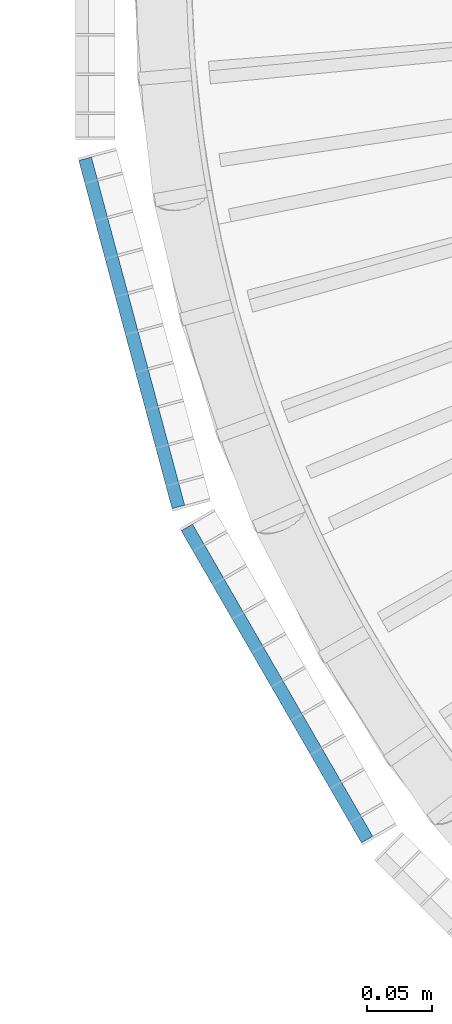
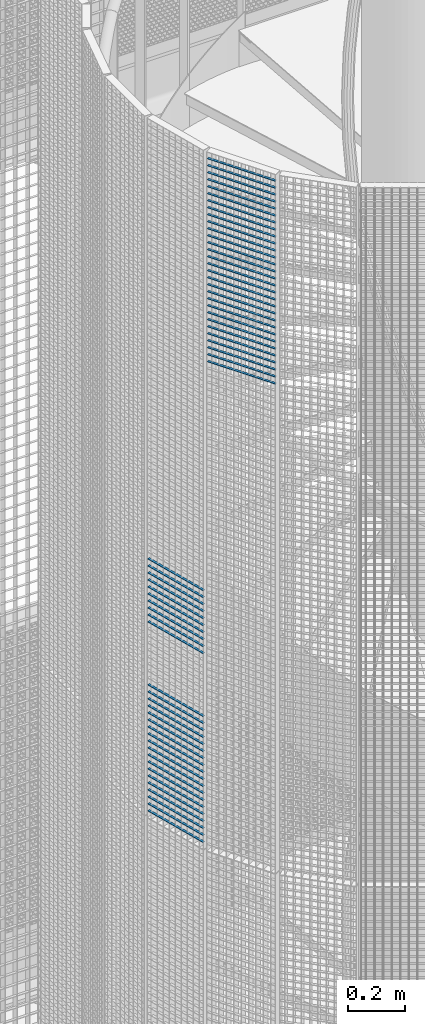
# One storey, part 338 of 1183: 59 beams, 2 elements without a shape of their own.
"""IFC2X3 building model written with IfcOpenShell, lengths in millimetres."""

import ifcopenshell
import ifcopenshell.guid

model = None  # the IFC model being written
_history = None  # IfcOwnerHistory: only IFC2X3 demands one
_inside = {}  # id of a spatial element -> (the spatial element, [elements in it])
_under = {}  # id of a project, library or spatial element -> (it, [spatial elements below it])
_declared = {}  # id of a project -> (the project, [libraries it declares])
_typed = {}  # id of a type object -> (the type object, [elements of that type])
_made_of = {}  # id of a material, layer set ... -> (it, [elements and type objects made of it])


def new_model(schema):
    """Start an empty IFC model of exactly this schema.

    Asked for "IFC4X3", IfcOpenShell would pick the latest addendum, in which some entities
    have other attributes; the version numbers below select the first issue.
    IFC2X3 requires an IfcOwnerHistory on every rooted entity: one is made here for all.
    """
    global model, _history
    if schema == "IFC4X3":
        model = ifcopenshell.file(schema_version=(4, 3, 0, 0))
    else:
        model = ifcopenshell.file(schema=schema)
    _inside.clear()
    _under.clear()
    _declared.clear()
    _typed.clear()
    _made_of.clear()
    _history = None
    if model.schema == "IFC2X3":
        org = make("IfcOrganization", Name="unknown")
        user = make(
            "IfcPersonAndOrganization",
            ThePerson=make("IfcPerson", FamilyName="unknown"),
            TheOrganization=org,
        )
        app = make(
            "IfcApplication",
            ApplicationDeveloper=org,
            Version="unknown",
            ApplicationFullName="unknown",
            ApplicationIdentifier="unknown",
        )
        _history = make(
            "IfcOwnerHistory",
            OwningUser=user,
            OwningApplication=app,
            ChangeAction="ADDED",
            CreationDate=0,
        )
    return model


def make(cls, **values):
    """One entity of the class cls with the attributes given. An attribute that is None is left unset."""
    return model.create_entity(
        cls, **{name: value for name, value in values.items() if value is not None}
    )


def rooted(cls, **values):
    """An entity with a GlobalId (a new one), such as an element, a storey or a relation."""
    return make(cls, GlobalId=ifcopenshell.guid.new(), OwnerHistory=_history, **values)


def si_unit(unit_type, name, prefix=None):
    """IfcSIUnit, for example si_unit("LENGTHUNIT", "METRE", prefix="MILLI")."""
    return make("IfcSIUnit", UnitType=unit_type, Prefix=prefix, Name=name)


def assignment(units):
    """IfcUnitAssignment: the units of a project."""
    return None if units is None else make("IfcUnitAssignment", Units=units)


def point(xyz):
    """IfcCartesianPoint."""
    return None if xyz is None else make("IfcCartesianPoint", Coordinates=xyz)


def direction(xyz):
    """IfcDirection."""
    return None if xyz is None else make("IfcDirection", DirectionRatios=xyz)


def frame(location, z_axis=None, x_axis=None):
    """IfcAxis2Placement3D, a coordinate frame: its origin and axes. An axis left out is left unset."""
    return make(
        "IfcAxis2Placement3D",
        Location=point(location),
        Axis=direction(z_axis),
        RefDirection=direction(x_axis),
    )


def frame_2d(location, x_axis=None):
    """IfcAxis2Placement2D, a coordinate frame in the plane: its origin and x axis."""
    return make(
        "IfcAxis2Placement2D", Location=point(location), RefDirection=direction(x_axis)
    )


def origin_with_axes():
    """The frame at (0, 0, 0) with the z axis (0, 0, 1) and the x axis (1, 0, 0) written out."""
    return frame((0.0, 0.0, 0.0), z_axis=(0.0, 0.0, 1.0), x_axis=(1.0, 0.0, 0.0))


def origin_2d_with_axis():
    """The frame at (0, 0) in the plane with the x axis (1, 0) written out."""
    return frame_2d((0.0, 0.0), x_axis=(1.0, 0.0))


def place(relative_to, where):
    """IfcLocalPlacement: puts the frame where relative to a parent placement (None: the world)."""
    return make(
        "IfcLocalPlacement", PlacementRelTo=relative_to, RelativePlacement=where
    )


def context(
    kind, dimensions, precision=None, world=None, true_north=None, identifier=None
):
    """IfcGeometricRepresentationContext, for example the 3D "Model" context."""
    return make(
        "IfcGeometricRepresentationContext",
        ContextIdentifier=identifier,
        ContextType=kind,
        CoordinateSpaceDimension=dimensions,
        Precision=precision,
        WorldCoordinateSystem=world,
        TrueNorth=true_north,
    )


def subcontext(parent, identifier, kind, view, scale=None):
    """IfcGeometricRepresentationSubContext, for example "Body" below "Model"."""
    return make(
        "IfcGeometricRepresentationSubContext",
        ContextIdentifier=identifier,
        ContextType=kind,
        ParentContext=parent,
        TargetScale=scale,
        TargetView=view,
    )


def project(units=None, contexts=None):
    """IfcProject with its units and contexts."""
    return rooted(
        "IfcProject",
        Name="project",
        RepresentationContexts=contexts,
        UnitsInContext=assignment(units),
    )


def spatial(cls, under=None, at=None, **own):
    """A site, building, storey or space (cls), placed at a placement, below another one or the project."""
    s = rooted(cls, ObjectPlacement=at, **own)
    if under is not None:
        _under.setdefault(under.id(), (under, []))[1].append(s)
    return s


def profile(cls, at=None, kind="AREA", **sizes):
    """A parametric profile (cls). Its sizes go by their IFC names, for example OverallWidth=200.0."""
    return make(cls, ProfileType=kind, Position=at, **sizes)


def rectangle(**sizes):
    """IfcRectangleProfileDef."""
    return profile("IfcRectangleProfileDef", **sizes)


def extrude(swept, where, along, depth):
    """IfcExtrudedAreaSolid: the profile swept, set in the frame where, extruded along a direction by depth."""
    return make(
        "IfcExtrudedAreaSolid",
        SweptArea=swept,
        Position=where,
        ExtrudedDirection=direction(along),
        Depth=depth,
    )


def shape(context_of_items, identifier, shape_type, items):
    """IfcShapeRepresentation: the items that make up one representation, for example the "Body"."""
    return make(
        "IfcShapeRepresentation",
        ContextOfItems=context_of_items,
        RepresentationIdentifier=identifier,
        RepresentationType=shape_type,
        Items=items,
    )


def material(Name=None, Category=None):
    """IfcMaterial."""
    return make("IfcMaterial", Name=Name, Category=Category)


def made_of(thing, what):
    """Note that an element or type object is made of a material, layer set ...; save() writes the relation."""
    if what is not None:
        _made_of.setdefault(what.id(), (what, []))[1].append(thing)
    return thing


def type_object(cls, material=None, **own):
    """A type object (cls), such as IfcWallType, which elements share."""
    return made_of(rooted(cls, **own), material)


def element(
    cls,
    number,
    at=None,
    inside=None,
    cuts=None,
    type_object=None,
    material=None,
    context=None,
    identifier="Body",
    shape_type=None,
    held_by="IfcProductDefinitionShape",
    body=None,
    shapes=None,
    **own,
):
    """One element of the class cls, such as IfcWall. Its Tag is "e" and its number.

    at: its placement. inside: the storey or other place that contains it. cuts: it is an
    opening in that element (IfcRelVoidsElement). A single representation is given by context,
    identifier, shape_type and body (its items); several are given by shapes. held_by: the class
    of the entity that holds the representations. save() writes the other relations.
    """
    e = rooted(cls, Tag="e%d" % number, ObjectPlacement=at, **own)
    if body is not None:
        shapes = [shape(context, identifier, shape_type, body)]
    if shapes is not None:
        e.Representation = make(held_by, Representations=shapes)
    if inside is not None:
        _inside.setdefault(inside.id(), (inside, []))[1].append(e)
    if cuts is not None:
        rooted(
            "IfcRelVoidsElement", RelatingBuildingElement=cuts, RelatedOpeningElement=e
        )
    if type_object is not None:
        _typed.setdefault(type_object.id(), (type_object, []))[1].append(e)
    return made_of(e, material)


def aggregate(whole, parts):
    """IfcRelAggregates: a whole, such as a stair, and the parts it consists of."""
    return rooted("IfcRelAggregates", RelatingObject=whole, RelatedObjects=parts)


def save(model, path):
    """Write the relations noted so far, then the file.

    IfcRelAggregates (storeys below a building ...), IfcRelContainedInSpatialStructure (elements
    in a storey), IfcRelDefinesByType, IfcRelAssociatesMaterial and IfcRelDeclares: one each for
    every whole, place, type object, material and project.
    """
    for whole, parts in _under.values():
        aggregate(whole, parts)
    for where, things in _inside.values():
        rooted(
            "IfcRelContainedInSpatialStructure",
            RelatedElements=things,
            RelatingStructure=where,
        )
    for kind, things in _typed.values():
        rooted("IfcRelDefinesByType", RelatedObjects=things, RelatingType=kind)
    for what, things in _made_of.values():
        rooted("IfcRelAssociatesMaterial", RelatedObjects=things, RelatingMaterial=what)
    for by, libraries in _declared.values():
        rooted("IfcRelDeclares", RelatingContext=by, RelatedDefinitions=libraries)
    model.write(path)


model = new_model("IFC2X3")

# Units and contexts
model_context = context("Model", 3, precision=1e-05, world=origin_with_axes())
body_context = subcontext(model_context, "Body", "Model", "MODEL_VIEW")
ifc_project = project(units=[si_unit("LENGTHUNIT", "METRE", prefix="MILLI"), si_unit("AREAUNIT", "SQUARE_METRE"), si_unit("VOLUMEUNIT", "CUBIC_METRE"), si_unit("MASSUNIT", "GRAM", prefix="KILO"), si_unit("TIMEUNIT", "SECOND"), si_unit("PLANEANGLEUNIT", "RADIAN"), si_unit("SOLIDANGLEUNIT", "STERADIAN"), si_unit("THERMODYNAMICTEMPERATUREUNIT", "DEGREE_CELSIUS"), si_unit("LUMINOUSINTENSITYUNIT", "LUMEN")], contexts=[model_context])

# Site, building, storey
site_placement = place(None, origin_with_axes())
site = spatial("IfcSite", under=ifc_project, at=site_placement, Name="Undefined", CompositionType="ELEMENT")
building_placement = place(site_placement, origin_with_axes())
building = spatial("IfcBuilding", under=site, at=building_placement, Name="Undefined", CompositionType="ELEMENT")
storey_placement = place(building_placement, origin_with_axes())
storey = spatial("IfcBuildingStorey", under=building, at=storey_placement, Name="Undefined", CompositionType="ELEMENT", Elevation=0.0)

# Assembly, beams
assembly_1_placement = place(storey_placement, origin_with_axes())
assembly_1 = element("IfcElementAssembly", 1, at=assembly_1_placement, inside=storey, Name="BORDURE", AssemblyPlace="NOTDEFINED", PredefinedType="NOTDEFINED")
ifc_material = material(Name="STEEL/S235JR")
beam_type = type_object("IfcBeamType", Name="PL2*10", PredefinedType="NOTDEFINED")
beam_1_placement = place(assembly_1_placement, frame((20560.1769047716, -421.483733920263, 15570.0), z_axis=(-0.965925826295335, -0.258819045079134, 0.0), x_axis=(-0.258819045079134, 0.965925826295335, 0.0)))
beam_1 = element("IfcBeam", 2, at=beam_1_placement, type_object=beam_type, material=ifc_material, Name="ENTRETOISE", context=body_context, shape_type="SweptSolid", body=[
    extrude(rectangle(XDim=2.0, YDim=10.0, at=origin_2d_with_axis()), frame((275.999999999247, 9.09494701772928e-13, 1.53210777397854e-14), z_axis=(-1.0, 0.0, 0.0), x_axis=(0.0, -1.0, 0.0)), (0.0, 0.0, 1.0), 276.0),
])
beam_2_placement = place(assembly_1_placement, frame((20560.1769047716, -421.483733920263, 15540.0), z_axis=(-0.965925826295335, -0.258819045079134, 0.0), x_axis=(-0.258819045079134, 0.965925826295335, 0.0)))
beam_2 = element("IfcBeam", 3, at=beam_2_placement, type_object=beam_type, material=ifc_material, Name="ENTRETOISE", context=body_context, shape_type="SweptSolid", body=[
    extrude(rectangle(XDim=2.0, YDim=10.0, at=origin_2d_with_axis()), frame((275.999999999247, 9.09494701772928e-13, 1.53210777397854e-14), z_axis=(-1.0, 0.0, 0.0), x_axis=(0.0, -1.0, 0.0)), (0.0, 0.0, 1.0), 276.0),
])
beam_3_placement = place(assembly_1_placement, frame((20560.1769047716, -421.483733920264, 15840.0), z_axis=(-0.965925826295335, -0.258819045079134, 0.0), x_axis=(-0.258819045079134, 0.965925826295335, 0.0)))
beam_3 = element("IfcBeam", 4, at=beam_3_placement, type_object=beam_type, material=ifc_material, Name="ENTRETOISE", context=body_context, shape_type="SweptSolid", body=[
    extrude(rectangle(XDim=2.0, YDim=10.0, at=origin_2d_with_axis()), frame((275.999999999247, 9.09494701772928e-13, 1.53210777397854e-14), z_axis=(-1.0, 0.0, 0.0), x_axis=(0.0, -1.0, 0.0)), (0.0, 0.0, 1.0), 276.0),
])
beam_4_placement = place(assembly_1_placement, frame((20560.1769047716, -421.483733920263, 15510.0), z_axis=(-0.965925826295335, -0.258819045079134, 0.0), x_axis=(-0.258819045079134, 0.965925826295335, 0.0)))
beam_4 = element("IfcBeam", 5, at=beam_4_placement, type_object=beam_type, material=ifc_material, Name="ENTRETOISE", context=body_context, shape_type="SweptSolid", body=[
    extrude(rectangle(XDim=2.0, YDim=10.0, at=origin_2d_with_axis()), frame((275.999999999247, 9.09494701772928e-13, 1.53210777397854e-14), z_axis=(-1.0, 0.0, 0.0), x_axis=(0.0, -1.0, 0.0)), (0.0, 0.0, 1.0), 276.0),
])
beam_5_placement = place(assembly_1_placement, frame((20560.1769047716, -421.483733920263, 15480.0), z_axis=(-0.965925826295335, -0.258819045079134, 0.0), x_axis=(-0.258819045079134, 0.965925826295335, 0.0)))
beam_5 = element("IfcBeam", 6, at=beam_5_placement, type_object=beam_type, material=ifc_material, Name="ENTRETOISE", context=body_context, shape_type="SweptSolid", body=[
    extrude(rectangle(XDim=2.0, YDim=10.0, at=origin_2d_with_axis()), frame((275.999999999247, 9.09494701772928e-13, 1.53210777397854e-14), z_axis=(-1.0, 0.0, 0.0), x_axis=(0.0, -1.0, 0.0)), (0.0, 0.0, 1.0), 276.0),
])
beam_6_placement = place(assembly_1_placement, frame((20560.1769047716, -421.483733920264, 15870.0), z_axis=(-0.965925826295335, -0.258819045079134, 0.0), x_axis=(-0.258819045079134, 0.965925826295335, 0.0)))
beam_6 = element("IfcBeam", 7, at=beam_6_placement, type_object=beam_type, material=ifc_material, Name="ENTRETOISE", context=body_context, shape_type="SweptSolid", body=[
    extrude(rectangle(XDim=2.0, YDim=10.0, at=origin_2d_with_axis()), frame((275.999999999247, 9.09494701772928e-13, 1.53210777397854e-14), z_axis=(-1.0, 0.0, 0.0), x_axis=(0.0, -1.0, 0.0)), (0.0, 0.0, 1.0), 276.0),
])
beam_7_placement = place(assembly_1_placement, frame((20560.1769047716, -421.483733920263, 15450.0), z_axis=(-0.965925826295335, -0.258819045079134, 0.0), x_axis=(-0.258819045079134, 0.965925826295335, 0.0)))
beam_7 = element("IfcBeam", 8, at=beam_7_placement, type_object=beam_type, material=ifc_material, Name="ENTRETOISE", context=body_context, shape_type="SweptSolid", body=[
    extrude(rectangle(XDim=2.0, YDim=10.0, at=origin_2d_with_axis()), frame((275.999999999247, 9.09494701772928e-13, 1.53210777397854e-14), z_axis=(-1.0, 0.0, 0.0), x_axis=(0.0, -1.0, 0.0)), (0.0, 0.0, 1.0), 276.0),
])
beam_8_placement = place(assembly_1_placement, frame((20560.1769047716, -421.483733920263, 15420.0), z_axis=(-0.965925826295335, -0.258819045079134, 0.0), x_axis=(-0.258819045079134, 0.965925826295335, 0.0)))
beam_8 = element("IfcBeam", 9, at=beam_8_placement, type_object=beam_type, material=ifc_material, Name="ENTRETOISE", context=body_context, shape_type="SweptSolid", body=[
    extrude(rectangle(XDim=2.0, YDim=10.0, at=origin_2d_with_axis()), frame((275.999999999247, 9.09494701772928e-13, 1.53210777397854e-14), z_axis=(-1.0, 0.0, 0.0), x_axis=(0.0, -1.0, 0.0)), (0.0, 0.0, 1.0), 276.0),
])
beam_9_placement = place(assembly_1_placement, frame((20560.1769047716, -421.483733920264, 15900.0), z_axis=(-0.965925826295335, -0.258819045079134, 0.0), x_axis=(-0.258819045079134, 0.965925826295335, 0.0)))
beam_9 = element("IfcBeam", 10, at=beam_9_placement, type_object=beam_type, material=ifc_material, Name="ENTRETOISE", context=body_context, shape_type="SweptSolid", body=[
    extrude(rectangle(XDim=2.0, YDim=10.0, at=origin_2d_with_axis()), frame((275.999999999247, 9.09494701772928e-13, 1.53210777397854e-14), z_axis=(-1.0, 0.0, 0.0), x_axis=(0.0, -1.0, 0.0)), (0.0, 0.0, 1.0), 276.0),
])
beam_10_placement = place(assembly_1_placement, frame((20560.1769047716, -421.483733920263, 15390.0), z_axis=(-0.965925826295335, -0.258819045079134, 0.0), x_axis=(-0.258819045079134, 0.965925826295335, 0.0)))
beam_10 = element("IfcBeam", 11, at=beam_10_placement, type_object=beam_type, material=ifc_material, Name="ENTRETOISE", context=body_context, shape_type="SweptSolid", body=[
    extrude(rectangle(XDim=2.0, YDim=10.0, at=origin_2d_with_axis()), frame((275.999999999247, 9.09494701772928e-13, 1.53210777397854e-14), z_axis=(-1.0, 0.0, 0.0), x_axis=(0.0, -1.0, 0.0)), (0.0, 0.0, 1.0), 276.0),
])
beam_11_placement = place(assembly_1_placement, frame((20560.1769047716, -421.483733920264, 15930.0), z_axis=(-0.965925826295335, -0.258819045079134, 0.0), x_axis=(-0.258819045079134, 0.965925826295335, 0.0)))
beam_11 = element("IfcBeam", 12, at=beam_11_placement, type_object=beam_type, material=ifc_material, Name="ENTRETOISE", context=body_context, shape_type="SweptSolid", body=[
    extrude(rectangle(XDim=2.0, YDim=10.0, at=origin_2d_with_axis()), frame((275.999999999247, 9.09494701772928e-13, 1.53210777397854e-14), z_axis=(-1.0, 0.0, 0.0), x_axis=(0.0, -1.0, 0.0)), (0.0, 0.0, 1.0), 276.0),
])
beam_12_placement = place(assembly_1_placement, frame((20560.1769047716, -421.483733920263, 15360.0), z_axis=(-0.965925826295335, -0.258819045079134, 0.0), x_axis=(-0.258819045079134, 0.965925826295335, 0.0)))
beam_12 = element("IfcBeam", 13, at=beam_12_placement, type_object=beam_type, material=ifc_material, Name="ENTRETOISE", context=body_context, shape_type="SweptSolid", body=[
    extrude(rectangle(XDim=2.0, YDim=10.0, at=origin_2d_with_axis()), frame((275.999999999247, 9.09494701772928e-13, 1.53210777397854e-14), z_axis=(-1.0, 0.0, 0.0), x_axis=(0.0, -1.0, 0.0)), (0.0, 0.0, 1.0), 276.0),
])
beam_13_placement = place(assembly_1_placement, frame((20560.1769047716, -421.483733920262, 15330.0), z_axis=(-0.965925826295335, -0.258819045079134, 0.0), x_axis=(-0.258819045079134, 0.965925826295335, 0.0)))
beam_13 = element("IfcBeam", 14, at=beam_13_placement, type_object=beam_type, material=ifc_material, Name="ENTRETOISE", context=body_context, shape_type="SweptSolid", body=[
    extrude(rectangle(XDim=2.0, YDim=10.0, at=origin_2d_with_axis()), frame((275.999999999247, 9.09494701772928e-13, 1.53210777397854e-14), z_axis=(-1.0, 0.0, 0.0), x_axis=(0.0, -1.0, 0.0)), (0.0, 0.0, 1.0), 276.0),
])
beam_14_placement = place(assembly_1_placement, frame((20560.1769047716, -421.483733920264, 15960.0), z_axis=(-0.965925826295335, -0.258819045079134, 0.0), x_axis=(-0.258819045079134, 0.965925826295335, 0.0)))
beam_14 = element("IfcBeam", 15, at=beam_14_placement, type_object=beam_type, material=ifc_material, Name="ENTRETOISE", context=body_context, shape_type="SweptSolid", body=[
    extrude(rectangle(XDim=2.0, YDim=10.0, at=origin_2d_with_axis()), frame((275.999999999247, 9.09494701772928e-13, 1.53210777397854e-14), z_axis=(-1.0, 0.0, 0.0), x_axis=(0.0, -1.0, 0.0)), (0.0, 0.0, 1.0), 276.0),
])
beam_15_placement = place(assembly_1_placement, frame((20560.1769047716, -421.483733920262, 15300.0), z_axis=(-0.965925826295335, -0.258819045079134, 0.0), x_axis=(-0.258819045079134, 0.965925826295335, 0.0)))
beam_15 = element("IfcBeam", 16, at=beam_15_placement, type_object=beam_type, material=ifc_material, Name="ENTRETOISE", context=body_context, shape_type="SweptSolid", body=[
    extrude(rectangle(XDim=2.0, YDim=10.0, at=origin_2d_with_axis()), frame((275.999999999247, 9.09494701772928e-13, 1.53210777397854e-14), z_axis=(-1.0, 0.0, 0.0), x_axis=(0.0, -1.0, 0.0)), (0.0, 0.0, 1.0), 276.0),
])
beam_16_placement = place(assembly_1_placement, frame((20560.1769047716, -421.483733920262, 15270.0), z_axis=(-0.965925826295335, -0.258819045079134, 0.0), x_axis=(-0.258819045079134, 0.965925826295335, 0.0)))
beam_16 = element("IfcBeam", 17, at=beam_16_placement, type_object=beam_type, material=ifc_material, Name="ENTRETOISE", context=body_context, shape_type="SweptSolid", body=[
    extrude(rectangle(XDim=2.0, YDim=10.0, at=origin_2d_with_axis()), frame((275.999999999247, 9.09494701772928e-13, 1.53210777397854e-14), z_axis=(-1.0, 0.0, 0.0), x_axis=(0.0, -1.0, 0.0)), (0.0, 0.0, 1.0), 276.0),
])
beam_17_placement = place(assembly_1_placement, frame((20560.1769047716, -421.483733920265, 15990.0), z_axis=(-0.965925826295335, -0.258819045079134, 0.0), x_axis=(-0.258819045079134, 0.965925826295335, 0.0)))
beam_17 = element("IfcBeam", 18, at=beam_17_placement, type_object=beam_type, material=ifc_material, Name="ENTRETOISE", context=body_context, shape_type="SweptSolid", body=[
    extrude(rectangle(XDim=2.0, YDim=10.0, at=origin_2d_with_axis()), frame((275.999999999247, 9.09494701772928e-13, 1.53210777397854e-14), z_axis=(-1.0, 0.0, 0.0), x_axis=(0.0, -1.0, 0.0)), (0.0, 0.0, 1.0), 276.0),
])
beam_18_placement = place(assembly_1_placement, frame((20560.1769047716, -421.483733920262, 15240.0), z_axis=(-0.965925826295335, -0.258819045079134, 0.0), x_axis=(-0.258819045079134, 0.965925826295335, 0.0)))
beam_18 = element("IfcBeam", 19, at=beam_18_placement, type_object=beam_type, material=ifc_material, Name="ENTRETOISE", context=body_context, shape_type="SweptSolid", body=[
    extrude(rectangle(XDim=2.0, YDim=10.0, at=origin_2d_with_axis()), frame((275.999999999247, 9.09494701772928e-13, 1.53210777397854e-14), z_axis=(-1.0, 0.0, 0.0), x_axis=(0.0, -1.0, 0.0)), (0.0, 0.0, 1.0), 276.0),
])
beam_19_placement = place(assembly_1_placement, frame((20560.1769047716, -421.483733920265, 16020.0), z_axis=(-0.965925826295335, -0.258819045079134, 0.0), x_axis=(-0.258819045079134, 0.965925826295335, 0.0)))
beam_19 = element("IfcBeam", 20, at=beam_19_placement, type_object=beam_type, material=ifc_material, Name="ENTRETOISE", context=body_context, shape_type="SweptSolid", body=[
    extrude(rectangle(XDim=2.0, YDim=10.0, at=origin_2d_with_axis()), frame((275.999999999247, 9.09494701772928e-13, 1.53210777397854e-14), z_axis=(-1.0, 0.0, 0.0), x_axis=(0.0, -1.0, 0.0)), (0.0, 0.0, 1.0), 276.0),
])
beam_20_placement = place(assembly_1_placement, frame((20560.1769047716, -421.483733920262, 15210.0), z_axis=(-0.965925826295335, -0.258819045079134, 0.0), x_axis=(-0.258819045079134, 0.965925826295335, 0.0)))
beam_20 = element("IfcBeam", 21, at=beam_20_placement, type_object=beam_type, material=ifc_material, Name="ENTRETOISE", context=body_context, shape_type="SweptSolid", body=[
    extrude(rectangle(XDim=2.0, YDim=10.0, at=origin_2d_with_axis()), frame((275.999999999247, 9.09494701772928e-13, 1.53210777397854e-14), z_axis=(-1.0, 0.0, 0.0), x_axis=(0.0, -1.0, 0.0)), (0.0, 0.0, 1.0), 276.0),
])
beam_21_placement = place(assembly_1_placement, frame((20560.1769047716, -421.483733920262, 15180.0), z_axis=(-0.965925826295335, -0.258819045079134, 0.0), x_axis=(-0.258819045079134, 0.965925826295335, 0.0)))
beam_21 = element("IfcBeam", 22, at=beam_21_placement, type_object=beam_type, material=ifc_material, Name="ENTRETOISE", context=body_context, shape_type="SweptSolid", body=[
    extrude(rectangle(XDim=2.0, YDim=10.0, at=origin_2d_with_axis()), frame((275.999999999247, 9.09494701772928e-13, 1.53210777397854e-14), z_axis=(-1.0, 0.0, 0.0), x_axis=(0.0, -1.0, 0.0)), (0.0, 0.0, 1.0), 276.0),
])
beam_22_placement = place(assembly_1_placement, frame((20560.1769047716, -421.483733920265, 16050.0), z_axis=(-0.965925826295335, -0.258819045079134, 0.0), x_axis=(-0.258819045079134, 0.965925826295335, 0.0)))
beam_22 = element("IfcBeam", 23, at=beam_22_placement, type_object=beam_type, material=ifc_material, Name="ENTRETOISE", context=body_context, shape_type="SweptSolid", body=[
    extrude(rectangle(XDim=2.0, YDim=10.0, at=origin_2d_with_axis()), frame((275.999999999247, 9.09494701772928e-13, 1.53210777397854e-14), z_axis=(-1.0, 0.0, 0.0), x_axis=(0.0, -1.0, 0.0)), (0.0, 0.0, 1.0), 276.0),
])
beam_23_placement = place(assembly_1_placement, frame((20560.1769047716, -421.483733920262, 15150.0), z_axis=(-0.965925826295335, -0.258819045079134, 0.0), x_axis=(-0.258819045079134, 0.965925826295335, 0.0)))
beam_23 = element("IfcBeam", 24, at=beam_23_placement, type_object=beam_type, material=ifc_material, Name="ENTRETOISE", context=body_context, shape_type="SweptSolid", body=[
    extrude(rectangle(XDim=2.0, YDim=10.0, at=origin_2d_with_axis()), frame((275.999999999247, 9.09494701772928e-13, 1.53210777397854e-14), z_axis=(-1.0, 0.0, 0.0), x_axis=(0.0, -1.0, 0.0)), (0.0, 0.0, 1.0), 276.0),
])
beam_24_placement = place(assembly_1_placement, frame((20560.1769047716, -421.483733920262, 15120.0), z_axis=(-0.965925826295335, -0.258819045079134, 0.0), x_axis=(-0.258819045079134, 0.965925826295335, 0.0)))
beam_24 = element("IfcBeam", 25, at=beam_24_placement, type_object=beam_type, material=ifc_material, Name="ENTRETOISE", context=body_context, shape_type="SweptSolid", body=[
    extrude(rectangle(XDim=2.0, YDim=10.0, at=origin_2d_with_axis()), frame((275.999999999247, 9.09494701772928e-13, 1.53210777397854e-14), z_axis=(-1.0, 0.0, 0.0), x_axis=(0.0, -1.0, 0.0)), (0.0, 0.0, 1.0), 276.0),
])
beam_25_placement = place(assembly_1_placement, frame((20560.1769047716, -421.483733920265, 16080.0), z_axis=(-0.965925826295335, -0.258819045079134, 0.0), x_axis=(-0.258819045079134, 0.965925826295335, 0.0)))
beam_25 = element("IfcBeam", 26, at=beam_25_placement, type_object=beam_type, material=ifc_material, Name="ENTRETOISE", context=body_context, shape_type="SweptSolid", body=[
    extrude(rectangle(XDim=2.0, YDim=10.0, at=origin_2d_with_axis()), frame((275.999999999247, 9.09494701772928e-13, 1.53210777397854e-14), z_axis=(-1.0, 0.0, 0.0), x_axis=(0.0, -1.0, 0.0)), (0.0, 0.0, 1.0), 276.0),
])
beam_26_placement = place(assembly_1_placement, frame((20560.1769047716, -421.483733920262, 15090.0), z_axis=(-0.965925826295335, -0.258819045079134, 0.0), x_axis=(-0.258819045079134, 0.965925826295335, 0.0)))
beam_26 = element("IfcBeam", 27, at=beam_26_placement, type_object=beam_type, material=ifc_material, Name="ENTRETOISE", context=body_context, shape_type="SweptSolid", body=[
    extrude(rectangle(XDim=2.0, YDim=10.0, at=origin_2d_with_axis()), frame((275.999999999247, 9.09494701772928e-13, 1.53210777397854e-14), z_axis=(-1.0, 0.0, 0.0), x_axis=(0.0, -1.0, 0.0)), (0.0, 0.0, 1.0), 276.0),
])
beam_27_placement = place(assembly_1_placement, frame((20560.1769047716, -421.483733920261, 15060.0), z_axis=(-0.965925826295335, -0.258819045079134, 0.0), x_axis=(-0.258819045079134, 0.965925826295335, 0.0)))
beam_27 = element("IfcBeam", 28, at=beam_27_placement, type_object=beam_type, material=ifc_material, Name="ENTRETOISE", context=body_context, shape_type="SweptSolid", body=[
    extrude(rectangle(XDim=2.0, YDim=10.0, at=origin_2d_with_axis()), frame((275.999999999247, 9.09494701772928e-13, 1.53210777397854e-14), z_axis=(-1.0, 0.0, 0.0), x_axis=(0.0, -1.0, 0.0)), (0.0, 0.0, 1.0), 276.0),
])
beam_28_placement = place(assembly_1_placement, frame((20560.1769047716, -421.483733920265, 16110.0), z_axis=(-0.965925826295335, -0.258819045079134, 0.0), x_axis=(-0.258819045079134, 0.965925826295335, 0.0)))
beam_28 = element("IfcBeam", 29, at=beam_28_placement, type_object=beam_type, material=ifc_material, Name="ENTRETOISE", context=body_context, shape_type="SweptSolid", body=[
    extrude(rectangle(XDim=2.0, YDim=10.0, at=origin_2d_with_axis()), frame((275.999999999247, 9.09494701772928e-13, 1.53210777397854e-14), z_axis=(-1.0, 0.0, 0.0), x_axis=(0.0, -1.0, 0.0)), (0.0, 0.0, 1.0), 276.0),
])
beam_29_placement = place(assembly_1_placement, frame((20560.1769047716, -421.48373392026, 15030.0), z_axis=(-0.965925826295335, -0.258819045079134, 0.0), x_axis=(-0.258819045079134, 0.965925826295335, 0.0)))
beam_29 = element("IfcBeam", 30, at=beam_29_placement, type_object=beam_type, material=ifc_material, Name="ENTRETOISE", context=body_context, shape_type="SweptSolid", body=[
    extrude(rectangle(XDim=2.0, YDim=10.0, at=origin_2d_with_axis()), frame((275.999999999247, 9.09494701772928e-13, 1.53210777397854e-14), z_axis=(-1.0, 0.0, 0.0), x_axis=(0.0, -1.0, 0.0)), (0.0, 0.0, 1.0), 276.0),
])
aggregate(assembly_1, [beam_1, beam_2, beam_3, beam_4, beam_5, beam_6, beam_7, beam_8, beam_9, beam_10, beam_11, beam_12, beam_13, beam_14, beam_15, beam_16, beam_17, beam_18, beam_19, beam_20, beam_21, beam_22, beam_23, beam_24, beam_25, beam_26, beam_27, beam_28, beam_29])

assembly_2_placement = place(storey_placement, origin_with_axes())
assembly_2 = element("IfcElementAssembly", 31, at=assembly_2_placement, inside=storey, Name="BORDURE", AssemblyPlace="NOTDEFINED", PredefinedType="NOTDEFINED")
beam_30_placement = place(assembly_2_placement, frame((20704.6960350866, -676.248044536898, 17970.0), z_axis=(-0.866025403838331, -0.499999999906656, 0.0), x_axis=(-0.49999999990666, 0.866025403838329, 0.0)))
beam_30 = element("IfcBeam", 32, at=beam_30_placement, type_object=beam_type, material=ifc_material, Name="ENTRETOISE", context=body_context, shape_type="SweptSolid", body=[
    extrude(rectangle(XDim=2.0, YDim=10.0, at=origin_2d_with_axis()), frame((275.999999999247, 9.09494701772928e-13, 1.53210777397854e-14), z_axis=(-1.0, 0.0, 0.0), x_axis=(0.0, -1.0, 0.0)), (0.0, 0.0, 1.0), 276.0),
])
beam_31_placement = place(assembly_2_placement, frame((20704.6960350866, -676.248044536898, 17940.0), z_axis=(-0.866025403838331, -0.499999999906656, 0.0), x_axis=(-0.49999999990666, 0.866025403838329, 0.0)))
beam_31 = element("IfcBeam", 33, at=beam_31_placement, type_object=beam_type, material=ifc_material, Name="ENTRETOISE", context=body_context, shape_type="SweptSolid", body=[
    extrude(rectangle(XDim=2.0, YDim=10.0, at=origin_2d_with_axis()), frame((275.999999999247, 9.09494701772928e-13, 1.53210777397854e-14), z_axis=(-1.0, 0.0, 0.0), x_axis=(0.0, -1.0, 0.0)), (0.0, 0.0, 1.0), 276.0),
])
beam_32_placement = place(assembly_2_placement, frame((20704.6960350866, -676.248044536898, 17910.0), z_axis=(-0.866025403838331, -0.499999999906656, 0.0), x_axis=(-0.49999999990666, 0.866025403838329, 0.0)))
beam_32 = element("IfcBeam", 34, at=beam_32_placement, type_object=beam_type, material=ifc_material, Name="ENTRETOISE", context=body_context, shape_type="SweptSolid", body=[
    extrude(rectangle(XDim=2.0, YDim=10.0, at=origin_2d_with_axis()), frame((275.999999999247, 9.09494701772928e-13, 1.53210777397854e-14), z_axis=(-1.0, 0.0, 0.0), x_axis=(0.0, -1.0, 0.0)), (0.0, 0.0, 1.0), 276.0),
])
beam_33_placement = place(assembly_2_placement, frame((20704.6960350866, -676.248044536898, 17880.0), z_axis=(-0.866025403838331, -0.499999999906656, 0.0), x_axis=(-0.49999999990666, 0.866025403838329, 0.0)))
beam_33 = element("IfcBeam", 35, at=beam_33_placement, type_object=beam_type, material=ifc_material, Name="ENTRETOISE", context=body_context, shape_type="SweptSolid", body=[
    extrude(rectangle(XDim=2.0, YDim=10.0, at=origin_2d_with_axis()), frame((275.999999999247, 9.09494701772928e-13, 1.53210777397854e-14), z_axis=(-1.0, 0.0, 0.0), x_axis=(0.0, -1.0, 0.0)), (0.0, 0.0, 1.0), 276.0),
])
beam_34_placement = place(assembly_2_placement, frame((20704.6960350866, -676.248044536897, 17850.0), z_axis=(-0.866025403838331, -0.499999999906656, 0.0), x_axis=(-0.49999999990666, 0.866025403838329, 0.0)))
beam_34 = element("IfcBeam", 36, at=beam_34_placement, type_object=beam_type, material=ifc_material, Name="ENTRETOISE", context=body_context, shape_type="SweptSolid", body=[
    extrude(rectangle(XDim=2.0, YDim=10.0, at=origin_2d_with_axis()), frame((275.999999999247, 9.09494701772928e-13, 1.53210777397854e-14), z_axis=(-1.0, 0.0, 0.0), x_axis=(0.0, -1.0, 0.0)), (0.0, 0.0, 1.0), 276.0),
])
beam_35_placement = place(assembly_2_placement, frame((20704.6960350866, -676.248044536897, 17820.0), z_axis=(-0.866025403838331, -0.499999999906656, 0.0), x_axis=(-0.49999999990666, 0.866025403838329, 0.0)))
beam_35 = element("IfcBeam", 37, at=beam_35_placement, type_object=beam_type, material=ifc_material, Name="ENTRETOISE", context=body_context, shape_type="SweptSolid", body=[
    extrude(rectangle(XDim=2.0, YDim=10.0, at=origin_2d_with_axis()), frame((275.999999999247, 9.09494701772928e-13, 1.53210777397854e-14), z_axis=(-1.0, 0.0, 0.0), x_axis=(0.0, -1.0, 0.0)), (0.0, 0.0, 1.0), 276.0),
])
beam_36_placement = place(assembly_2_placement, frame((20704.6960350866, -676.248044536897, 17790.0), z_axis=(-0.866025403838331, -0.499999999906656, 0.0), x_axis=(-0.49999999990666, 0.866025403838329, 0.0)))
beam_36 = element("IfcBeam", 38, at=beam_36_placement, type_object=beam_type, material=ifc_material, Name="ENTRETOISE", context=body_context, shape_type="SweptSolid", body=[
    extrude(rectangle(XDim=2.0, YDim=10.0, at=origin_2d_with_axis()), frame((275.999999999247, 9.09494701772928e-13, 1.53210777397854e-14), z_axis=(-1.0, 0.0, 0.0), x_axis=(0.0, -1.0, 0.0)), (0.0, 0.0, 1.0), 276.0),
])
beam_37_placement = place(assembly_2_placement, frame((20704.6960350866, -676.248044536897, 17760.0), z_axis=(-0.866025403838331, -0.499999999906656, 0.0), x_axis=(-0.49999999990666, 0.866025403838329, 0.0)))
beam_37 = element("IfcBeam", 39, at=beam_37_placement, type_object=beam_type, material=ifc_material, Name="ENTRETOISE", context=body_context, shape_type="SweptSolid", body=[
    extrude(rectangle(XDim=2.0, YDim=10.0, at=origin_2d_with_axis()), frame((275.999999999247, 9.09494701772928e-13, 1.53210777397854e-14), z_axis=(-1.0, 0.0, 0.0), x_axis=(0.0, -1.0, 0.0)), (0.0, 0.0, 1.0), 276.0),
])
beam_38_placement = place(assembly_2_placement, frame((20704.6960350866, -676.248044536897, 17730.0), z_axis=(-0.866025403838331, -0.499999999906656, 0.0), x_axis=(-0.49999999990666, 0.866025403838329, 0.0)))
beam_38 = element("IfcBeam", 40, at=beam_38_placement, type_object=beam_type, material=ifc_material, Name="ENTRETOISE", context=body_context, shape_type="SweptSolid", body=[
    extrude(rectangle(XDim=2.0, YDim=10.0, at=origin_2d_with_axis()), frame((275.999999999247, 9.09494701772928e-13, 1.53210777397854e-14), z_axis=(-1.0, 0.0, 0.0), x_axis=(0.0, -1.0, 0.0)), (0.0, 0.0, 1.0), 276.0),
])
beam_39_placement = place(assembly_2_placement, frame((20704.6960350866, -676.248044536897, 17700.0), z_axis=(-0.866025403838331, -0.499999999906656, 0.0), x_axis=(-0.49999999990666, 0.866025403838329, 0.0)))
beam_39 = element("IfcBeam", 41, at=beam_39_placement, type_object=beam_type, material=ifc_material, Name="ENTRETOISE", context=body_context, shape_type="SweptSolid", body=[
    extrude(rectangle(XDim=2.0, YDim=10.0, at=origin_2d_with_axis()), frame((275.999999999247, 9.09494701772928e-13, 1.53210777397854e-14), z_axis=(-1.0, 0.0, 0.0), x_axis=(0.0, -1.0, 0.0)), (0.0, 0.0, 1.0), 276.0),
])
beam_40_placement = place(assembly_2_placement, frame((20704.6960350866, -676.248044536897, 17670.0), z_axis=(-0.866025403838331, -0.499999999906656, 0.0), x_axis=(-0.49999999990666, 0.866025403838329, 0.0)))
beam_40 = element("IfcBeam", 42, at=beam_40_placement, type_object=beam_type, material=ifc_material, Name="ENTRETOISE", context=body_context, shape_type="SweptSolid", body=[
    extrude(rectangle(XDim=2.0, YDim=10.0, at=origin_2d_with_axis()), frame((275.999999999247, 9.09494701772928e-13, 1.53210777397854e-14), z_axis=(-1.0, 0.0, 0.0), x_axis=(0.0, -1.0, 0.0)), (0.0, 0.0, 1.0), 276.0),
])
beam_41_placement = place(assembly_2_placement, frame((20704.6960350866, -676.248044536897, 17640.0), z_axis=(-0.866025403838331, -0.499999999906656, 0.0), x_axis=(-0.49999999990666, 0.866025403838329, 0.0)))
beam_41 = element("IfcBeam", 43, at=beam_41_placement, type_object=beam_type, material=ifc_material, Name="ENTRETOISE", context=body_context, shape_type="SweptSolid", body=[
    extrude(rectangle(XDim=2.0, YDim=10.0, at=origin_2d_with_axis()), frame((275.999999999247, 9.09494701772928e-13, 1.53210777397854e-14), z_axis=(-1.0, 0.0, 0.0), x_axis=(0.0, -1.0, 0.0)), (0.0, 0.0, 1.0), 276.0),
])
beam_42_placement = place(assembly_2_placement, frame((20704.6960350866, -676.248044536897, 17610.0), z_axis=(-0.866025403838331, -0.499999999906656, 0.0), x_axis=(-0.49999999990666, 0.866025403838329, 0.0)))
beam_42 = element("IfcBeam", 44, at=beam_42_placement, type_object=beam_type, material=ifc_material, Name="ENTRETOISE", context=body_context, shape_type="SweptSolid", body=[
    extrude(rectangle(XDim=2.0, YDim=10.0, at=origin_2d_with_axis()), frame((275.999999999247, 9.09494701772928e-13, 1.53210777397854e-14), z_axis=(-1.0, 0.0, 0.0), x_axis=(0.0, -1.0, 0.0)), (0.0, 0.0, 1.0), 276.0),
])
beam_43_placement = place(assembly_2_placement, frame((20704.6960350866, -676.248044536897, 17580.0), z_axis=(-0.866025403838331, -0.499999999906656, 0.0), x_axis=(-0.49999999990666, 0.866025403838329, 0.0)))
beam_43 = element("IfcBeam", 45, at=beam_43_placement, type_object=beam_type, material=ifc_material, Name="ENTRETOISE", context=body_context, shape_type="SweptSolid", body=[
    extrude(rectangle(XDim=2.0, YDim=10.0, at=origin_2d_with_axis()), frame((275.999999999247, 9.09494701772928e-13, 1.53210777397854e-14), z_axis=(-1.0, 0.0, 0.0), x_axis=(0.0, -1.0, 0.0)), (0.0, 0.0, 1.0), 276.0),
])
beam_44_placement = place(assembly_2_placement, frame((20704.6960350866, -676.248044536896, 17550.0), z_axis=(-0.866025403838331, -0.499999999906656, 0.0), x_axis=(-0.49999999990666, 0.866025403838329, 0.0)))
beam_44 = element("IfcBeam", 46, at=beam_44_placement, type_object=beam_type, material=ifc_material, Name="ENTRETOISE", context=body_context, shape_type="SweptSolid", body=[
    extrude(rectangle(XDim=2.0, YDim=10.0, at=origin_2d_with_axis()), frame((275.999999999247, 9.09494701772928e-13, 1.53210777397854e-14), z_axis=(-1.0, 0.0, 0.0), x_axis=(0.0, -1.0, 0.0)), (0.0, 0.0, 1.0), 276.0),
])
beam_45_placement = place(assembly_2_placement, frame((20704.6960350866, -676.248044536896, 17520.0), z_axis=(-0.866025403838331, -0.499999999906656, 0.0), x_axis=(-0.49999999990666, 0.866025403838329, 0.0)))
beam_45 = element("IfcBeam", 47, at=beam_45_placement, type_object=beam_type, material=ifc_material, Name="ENTRETOISE", context=body_context, shape_type="SweptSolid", body=[
    extrude(rectangle(XDim=2.0, YDim=10.0, at=origin_2d_with_axis()), frame((275.999999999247, 9.09494701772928e-13, 1.53210777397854e-14), z_axis=(-1.0, 0.0, 0.0), x_axis=(0.0, -1.0, 0.0)), (0.0, 0.0, 1.0), 276.0),
])
beam_46_placement = place(assembly_2_placement, frame((20704.6960350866, -676.248044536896, 17490.0), z_axis=(-0.866025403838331, -0.499999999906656, 0.0), x_axis=(-0.49999999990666, 0.866025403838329, 0.0)))
beam_46 = element("IfcBeam", 48, at=beam_46_placement, type_object=beam_type, material=ifc_material, Name="ENTRETOISE", context=body_context, shape_type="SweptSolid", body=[
    extrude(rectangle(XDim=2.0, YDim=10.0, at=origin_2d_with_axis()), frame((275.999999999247, 9.09494701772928e-13, 1.53210777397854e-14), z_axis=(-1.0, 0.0, 0.0), x_axis=(0.0, -1.0, 0.0)), (0.0, 0.0, 1.0), 276.0),
])
beam_47_placement = place(assembly_2_placement, frame((20704.6960350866, -676.248044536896, 17460.0), z_axis=(-0.866025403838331, -0.499999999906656, 0.0), x_axis=(-0.49999999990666, 0.866025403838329, 0.0)))
beam_47 = element("IfcBeam", 49, at=beam_47_placement, type_object=beam_type, material=ifc_material, Name="ENTRETOISE", context=body_context, shape_type="SweptSolid", body=[
    extrude(rectangle(XDim=2.0, YDim=10.0, at=origin_2d_with_axis()), frame((275.999999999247, 9.09494701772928e-13, 1.53210777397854e-14), z_axis=(-1.0, 0.0, 0.0), x_axis=(0.0, -1.0, 0.0)), (0.0, 0.0, 1.0), 276.0),
])
beam_48_placement = place(assembly_2_placement, frame((20704.6960350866, -676.248044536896, 17430.0), z_axis=(-0.866025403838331, -0.499999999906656, 0.0), x_axis=(-0.49999999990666, 0.866025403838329, 0.0)))
beam_48 = element("IfcBeam", 50, at=beam_48_placement, type_object=beam_type, material=ifc_material, Name="ENTRETOISE", context=body_context, shape_type="SweptSolid", body=[
    extrude(rectangle(XDim=2.0, YDim=10.0, at=origin_2d_with_axis()), frame((275.999999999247, 9.09494701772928e-13, 1.53210777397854e-14), z_axis=(-1.0, 0.0, 0.0), x_axis=(0.0, -1.0, 0.0)), (0.0, 0.0, 1.0), 276.0),
])
beam_49_placement = place(assembly_2_placement, frame((20704.6960350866, -676.248044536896, 17400.0), z_axis=(-0.866025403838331, -0.499999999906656, 0.0), x_axis=(-0.49999999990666, 0.866025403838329, 0.0)))
beam_49 = element("IfcBeam", 51, at=beam_49_placement, type_object=beam_type, material=ifc_material, Name="ENTRETOISE", context=body_context, shape_type="SweptSolid", body=[
    extrude(rectangle(XDim=2.0, YDim=10.0, at=origin_2d_with_axis()), frame((275.999999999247, 9.09494701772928e-13, 1.53210777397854e-14), z_axis=(-1.0, 0.0, 0.0), x_axis=(0.0, -1.0, 0.0)), (0.0, 0.0, 1.0), 276.0),
])
beam_50_placement = place(assembly_2_placement, frame((20704.6960350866, -676.248044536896, 17370.0), z_axis=(-0.866025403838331, -0.499999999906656, 0.0), x_axis=(-0.49999999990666, 0.866025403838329, 0.0)))
beam_50 = element("IfcBeam", 52, at=beam_50_placement, type_object=beam_type, material=ifc_material, Name="ENTRETOISE", context=body_context, shape_type="SweptSolid", body=[
    extrude(rectangle(XDim=2.0, YDim=10.0, at=origin_2d_with_axis()), frame((275.999999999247, 9.09494701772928e-13, 1.53210777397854e-14), z_axis=(-1.0, 0.0, 0.0), x_axis=(0.0, -1.0, 0.0)), (0.0, 0.0, 1.0), 276.0),
])
beam_51_placement = place(assembly_2_placement, frame((20704.6960350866, -676.248044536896, 17340.0), z_axis=(-0.866025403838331, -0.499999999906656, 0.0), x_axis=(-0.49999999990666, 0.866025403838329, 0.0)))
beam_51 = element("IfcBeam", 53, at=beam_51_placement, type_object=beam_type, material=ifc_material, Name="ENTRETOISE", context=body_context, shape_type="SweptSolid", body=[
    extrude(rectangle(XDim=2.0, YDim=10.0, at=origin_2d_with_axis()), frame((275.999999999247, 9.09494701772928e-13, 1.53210777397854e-14), z_axis=(-1.0, 0.0, 0.0), x_axis=(0.0, -1.0, 0.0)), (0.0, 0.0, 1.0), 276.0),
])
beam_52_placement = place(assembly_2_placement, frame((20704.6960350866, -676.248044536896, 17310.0), z_axis=(-0.866025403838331, -0.499999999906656, 0.0), x_axis=(-0.49999999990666, 0.866025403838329, 0.0)))
beam_52 = element("IfcBeam", 54, at=beam_52_placement, type_object=beam_type, material=ifc_material, Name="ENTRETOISE", context=body_context, shape_type="SweptSolid", body=[
    extrude(rectangle(XDim=2.0, YDim=10.0, at=origin_2d_with_axis()), frame((275.999999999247, 9.09494701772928e-13, 1.53210777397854e-14), z_axis=(-1.0, 0.0, 0.0), x_axis=(0.0, -1.0, 0.0)), (0.0, 0.0, 1.0), 276.0),
])
beam_53_placement = place(assembly_2_placement, frame((20704.6960350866, -676.248044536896, 17280.0), z_axis=(-0.866025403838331, -0.499999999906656, 0.0), x_axis=(-0.49999999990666, 0.866025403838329, 0.0)))
beam_53 = element("IfcBeam", 55, at=beam_53_placement, type_object=beam_type, material=ifc_material, Name="ENTRETOISE", context=body_context, shape_type="SweptSolid", body=[
    extrude(rectangle(XDim=2.0, YDim=10.0, at=origin_2d_with_axis()), frame((275.999999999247, 9.09494701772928e-13, 1.53210777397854e-14), z_axis=(-1.0, 0.0, 0.0), x_axis=(0.0, -1.0, 0.0)), (0.0, 0.0, 1.0), 276.0),
])
beam_54_placement = place(assembly_2_placement, frame((20704.6960350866, -676.248044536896, 17250.0), z_axis=(-0.866025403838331, -0.499999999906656, 0.0), x_axis=(-0.49999999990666, 0.866025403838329, 0.0)))
beam_54 = element("IfcBeam", 56, at=beam_54_placement, type_object=beam_type, material=ifc_material, Name="ENTRETOISE", context=body_context, shape_type="SweptSolid", body=[
    extrude(rectangle(XDim=2.0, YDim=10.0, at=origin_2d_with_axis()), frame((275.999999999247, 9.09494701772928e-13, 1.53210777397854e-14), z_axis=(-1.0, 0.0, 0.0), x_axis=(0.0, -1.0, 0.0)), (0.0, 0.0, 1.0), 276.0),
])
beam_55_placement = place(assembly_2_placement, frame((20704.6960350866, -676.248044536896, 17220.0), z_axis=(-0.866025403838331, -0.499999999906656, 0.0), x_axis=(-0.49999999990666, 0.866025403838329, 0.0)))
beam_55 = element("IfcBeam", 57, at=beam_55_placement, type_object=beam_type, material=ifc_material, Name="ENTRETOISE", context=body_context, shape_type="SweptSolid", body=[
    extrude(rectangle(XDim=2.0, YDim=10.0, at=origin_2d_with_axis()), frame((275.999999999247, 9.09494701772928e-13, 1.53210777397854e-14), z_axis=(-1.0, 0.0, 0.0), x_axis=(0.0, -1.0, 0.0)), (0.0, 0.0, 1.0), 276.0),
])
beam_56_placement = place(assembly_2_placement, frame((20704.6960350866, -676.248044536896, 17190.0), z_axis=(-0.866025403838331, -0.499999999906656, 0.0), x_axis=(-0.49999999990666, 0.866025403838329, 0.0)))
beam_56 = element("IfcBeam", 58, at=beam_56_placement, type_object=beam_type, material=ifc_material, Name="ENTRETOISE", context=body_context, shape_type="SweptSolid", body=[
    extrude(rectangle(XDim=2.0, YDim=10.0, at=origin_2d_with_axis()), frame((275.999999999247, 9.09494701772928e-13, 1.53210777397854e-14), z_axis=(-1.0, 0.0, 0.0), x_axis=(0.0, -1.0, 0.0)), (0.0, 0.0, 1.0), 276.0),
])
beam_57_placement = place(assembly_2_placement, frame((20704.6960350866, -676.248044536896, 17160.0), z_axis=(-0.866025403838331, -0.499999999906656, 0.0), x_axis=(-0.49999999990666, 0.866025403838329, 0.0)))
beam_57 = element("IfcBeam", 59, at=beam_57_placement, type_object=beam_type, material=ifc_material, Name="ENTRETOISE", context=body_context, shape_type="SweptSolid", body=[
    extrude(rectangle(XDim=2.0, YDim=10.0, at=origin_2d_with_axis()), frame((275.999999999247, 9.09494701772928e-13, 1.53210777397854e-14), z_axis=(-1.0, 0.0, 0.0), x_axis=(0.0, -1.0, 0.0)), (0.0, 0.0, 1.0), 276.0),
])
beam_58_placement = place(assembly_2_placement, frame((20704.6960350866, -676.248044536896, 17130.0), z_axis=(-0.866025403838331, -0.499999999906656, 0.0), x_axis=(-0.49999999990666, 0.866025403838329, 0.0)))
beam_58 = element("IfcBeam", 60, at=beam_58_placement, type_object=beam_type, material=ifc_material, Name="ENTRETOISE", context=body_context, shape_type="SweptSolid", body=[
    extrude(rectangle(XDim=2.0, YDim=10.0, at=origin_2d_with_axis()), frame((275.999999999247, 9.09494701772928e-13, 1.53210777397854e-14), z_axis=(-1.0, 0.0, 0.0), x_axis=(0.0, -1.0, 0.0)), (0.0, 0.0, 1.0), 276.0),
])
beam_59_placement = place(assembly_2_placement, frame((20704.6960350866, -676.248044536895, 17100.0), z_axis=(-0.866025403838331, -0.499999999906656, 0.0), x_axis=(-0.49999999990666, 0.866025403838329, 0.0)))
beam_59 = element("IfcBeam", 61, at=beam_59_placement, type_object=beam_type, material=ifc_material, Name="ENTRETOISE", context=body_context, shape_type="SweptSolid", body=[
    extrude(rectangle(XDim=2.0, YDim=10.0, at=origin_2d_with_axis()), frame((275.999999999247, 9.09494701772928e-13, 1.53210777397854e-14), z_axis=(-1.0, 0.0, 0.0), x_axis=(0.0, -1.0, 0.0)), (0.0, 0.0, 1.0), 276.0),
])
aggregate(assembly_2, [beam_30, beam_31, beam_32, beam_33, beam_34, beam_35, beam_36, beam_37, beam_38, beam_39, beam_40, beam_41, beam_42, beam_43, beam_44, beam_45, beam_46, beam_47, beam_48, beam_49, beam_50, beam_51, beam_52, beam_53, beam_54, beam_55, beam_56, beam_57, beam_58, beam_59])

save(model, "model.ifc")
